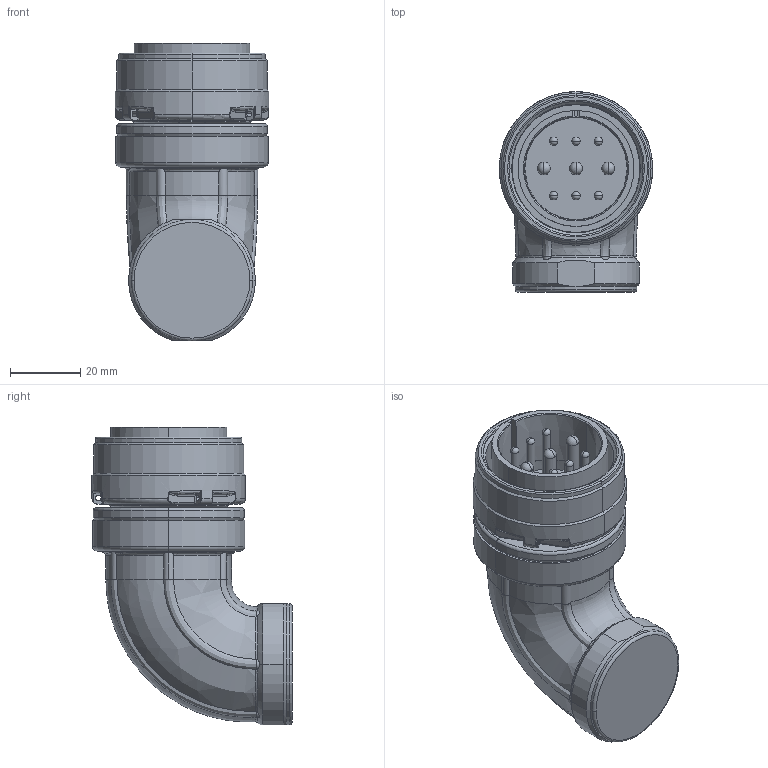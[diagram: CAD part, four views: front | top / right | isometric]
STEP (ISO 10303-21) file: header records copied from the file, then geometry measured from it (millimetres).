
FILE_DESCRIPTION (( 'STEP AP203' ), '1' );
FILE_NAME ('K3D-NMS3108B24-11P-V3_JAE_Proprietary.step', '2022-10-27T02:18:19', ( '' ), ( '' ), 'SwSTEP 2.0', 'SolidWorks 2021', '' );
FILE_SCHEMA (( 'CONFIG_CONTROL_DESIGN' ));
Length unit declared in the file: millimetre
Products named in the file (1): K3D-NMS3108B24-11P-V3_JAE_Proprietary
Bounding box: 43.64 x 56.87 x 84.68 mm (x, y, z)
Volume: 87708.2 mm3; surface area: 21850.9 mm2
Topology: 1 solids, 1 shells, 258 faces, 664 edges, 401 vertices
Faces by surface type: cylinder 85, bspline 66, plane 38, cone 26, torus 25, sphere 18
Entity records: 19269 total; most frequent: CARTESIAN_POINT 13704, ORIENTED_EDGE 1256, DIRECTION 1010, EDGE_CURVE 628, AXIS2_PLACEMENT_3D 431, VERTEX_POINT 389, EDGE_LOOP 281, FACE_OUTER_BOUND 258
